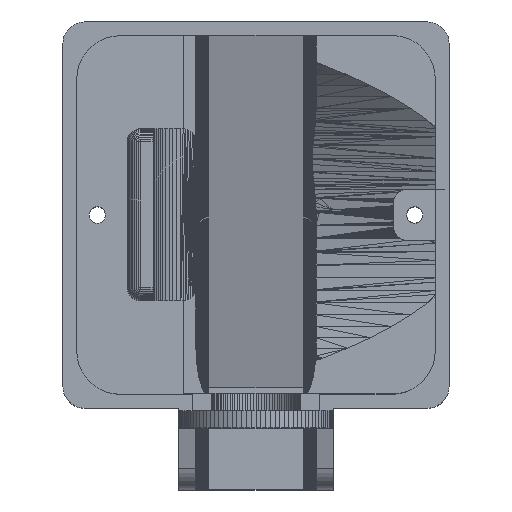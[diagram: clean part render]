
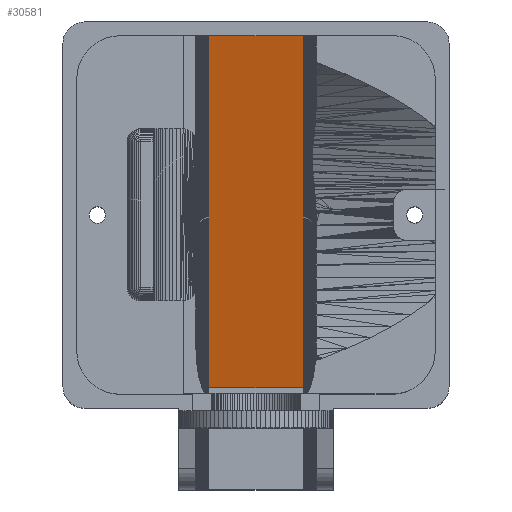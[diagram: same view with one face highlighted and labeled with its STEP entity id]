
A CAD part, top view. The second image highlights one B-rep face of the part: STEP entity #30581.
In plain terms, the highlighted planar face has unit normal (0, -0.259, 0.966).
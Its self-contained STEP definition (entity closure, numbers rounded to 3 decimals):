
#1058=PLANE('',#32715);
#3111=FACE_OUTER_BOUND('',#5020,.T.);
#5020=EDGE_LOOP('',(#26586,#26587,#26588,#26589));
#7530=LINE('',#45992,#11582);
#8313=LINE('',#47743,#12365);
#8676=LINE('',#48470,#12728);
#8684=LINE('',#48486,#12736);
#11582=VECTOR('',#36873,10.);
#12365=VECTOR('',#38410,1.);
#12728=VECTOR('',#39181,1.);
#12736=VECTOR('',#39199,1.);
#15213=VERTEX_POINT('',#45989);
#15214=VERTEX_POINT('',#45991);
#15805=VERTEX_POINT('',#47742);
#15965=VERTEX_POINT('',#48468);
#18308=EDGE_CURVE('',#15214,#15213,#7530,.T.);
#19188=EDGE_CURVE('',#15214,#15805,#8313,.T.);
#19551=EDGE_CURVE('',#15213,#15965,#8676,.T.);
#19559=EDGE_CURVE('',#15805,#15965,#8684,.T.);
#26586=ORIENTED_EDGE('',*,*,#18308,.T.);
#26587=ORIENTED_EDGE('',*,*,#19551,.T.);
#26588=ORIENTED_EDGE('',*,*,#19559,.F.);
#26589=ORIENTED_EDGE('',*,*,#19188,.F.);
#30581=ADVANCED_FACE('',(#3111),#1058,.T.);
#32715=AXIS2_PLACEMENT_3D('',#48485,#39197,#39198);
#36873=DIRECTION('',(1.,0.,0.));
#38410=DIRECTION('',(0.,0.966,0.259));
#39181=DIRECTION('',(0.,0.966,0.259));
#39197=DIRECTION('center_axis',(0.,-0.259,0.966));
#39198=DIRECTION('ref_axis',(1.,0.,0.));
#39199=DIRECTION('',(1.,0.,0.));
#45989=CARTESIAN_POINT('',(211.002,649.261,4.532));
#45991=CARTESIAN_POINT('',(188.998,649.261,4.532));
#45992=CARTESIAN_POINT('',(206.032,649.261,4.532));
#47742=CARTESIAN_POINT('',(188.998,736.76,27.978));
#47743=CARTESIAN_POINT('',(188.998,645.31,3.473));
#48468=CARTESIAN_POINT('',(211.002,736.76,27.978));
#48470=CARTESIAN_POINT('',(211.002,645.31,3.473));
#48485=CARTESIAN_POINT('Origin',(211.002,645.31,3.473));
#48486=CARTESIAN_POINT('',(188.998,736.76,27.978));
